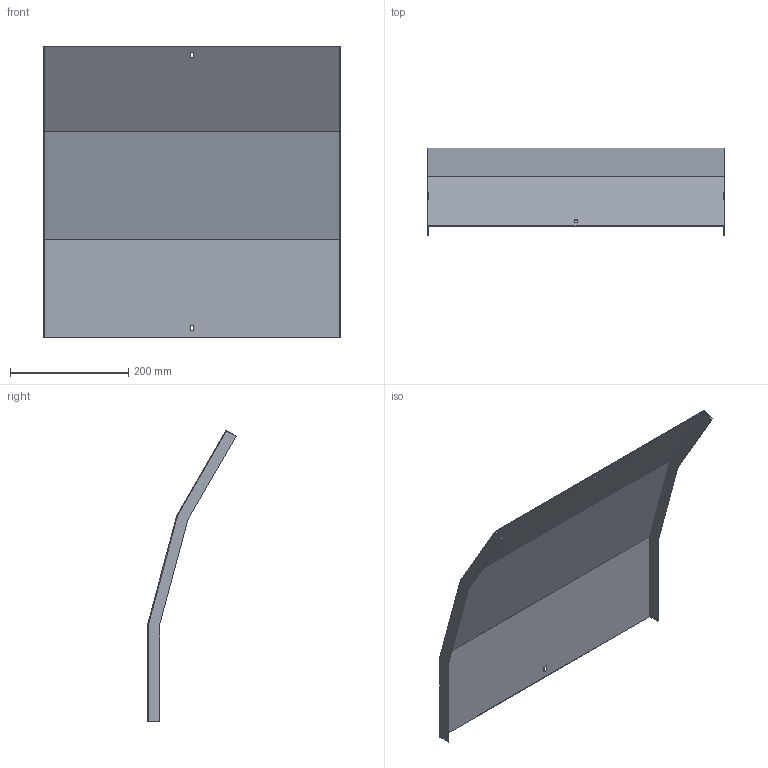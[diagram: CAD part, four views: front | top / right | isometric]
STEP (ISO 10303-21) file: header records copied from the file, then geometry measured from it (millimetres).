
FILE_DESCRIPTION (( 'STEP AP214' ), '1' );
FILE_NAME ('A2_35N3J500.step', '2025-02-21T10:31:24', ( '' ), ( '' ), 'SwSTEP 2.0', 'SolidWorks 2023', '' );
FILE_SCHEMA (( 'AUTOMOTIVE_DESIGN' ));
Length unit declared in the file: millimetre
Products named in the file (1): A2_35N3J500
Bounding box: 503 x 149.62 x 493.76 mm (x, y, z)
Volume: 422463.4 mm3; surface area: 566534.7 mm2
Topology: 1 solids, 1 shells, 26 faces, 72 edges, 48 vertices
Faces by surface type: plane 26
Entity records: 847 total; most frequent: CARTESIAN_POINT 147, ORIENTED_EDGE 144, DIRECTION 126, LINE 72, EDGE_CURVE 72, VECTOR 72, VERTEX_POINT 48, EDGE_LOOP 30
